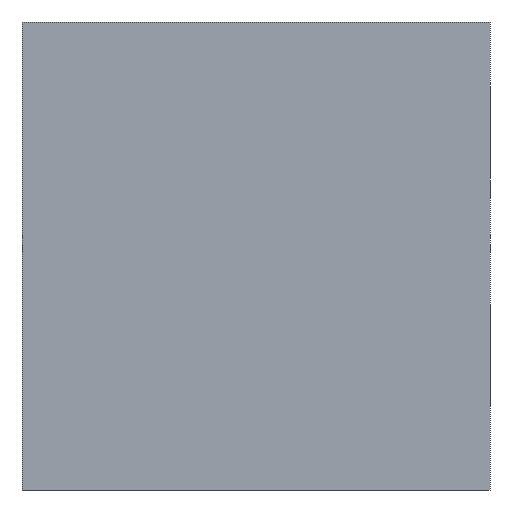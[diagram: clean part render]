
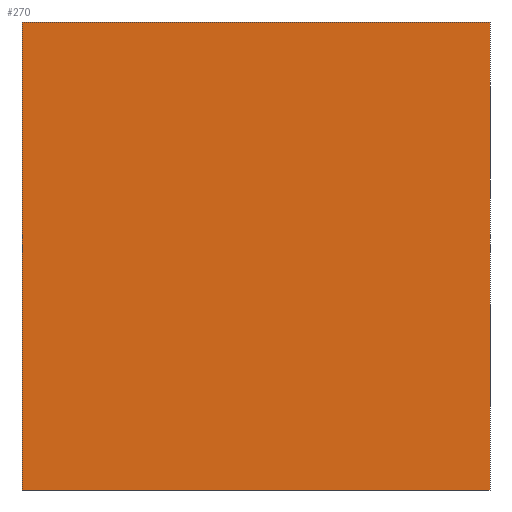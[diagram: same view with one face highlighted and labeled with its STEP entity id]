
A CAD part, front view. The second image highlights one B-rep face of the part: STEP entity #270.
In plain terms, the highlighted planar face has unit normal (0, -1, 0).
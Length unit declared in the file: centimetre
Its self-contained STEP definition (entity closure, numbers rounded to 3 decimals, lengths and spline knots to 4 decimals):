
#12 = VECTOR ( 'NONE', #1023, 100. ) ;
#23 = VECTOR ( 'NONE', #39, 100. ) ;
#27 = AXIS2_PLACEMENT_3D ( 'NONE', #768, #203, #542 ) ;
#36 = LINE ( 'NONE', #489, #23 ) ;
#39 = DIRECTION ( 'NONE',  ( 0., 0., -1. ) ) ;
#43 = EDGE_LOOP ( 'NONE', ( #741, #619, #787, #934 ) ) ;
#152 = DIRECTION ( 'NONE',  ( 1., 0., 0. ) ) ;
#158 = VERTEX_POINT ( 'NONE', #779 ) ;
#203 = DIRECTION ( 'NONE',  ( 0., 1., 0. ) ) ;
#206 = EDGE_CURVE ( 'NONE', #341, #765, #622, .T. ) ;
#270 = ADVANCED_FACE ( 'NONE', ( #949 ), #453, .F. ) ;
#273 = CARTESIAN_POINT ( 'NONE',  ( 0., 0., 1000. ) ) ;
#275 = EDGE_CURVE ( 'NONE', #481, #341, #865, .T. ) ;
#341 = VERTEX_POINT ( 'NONE', #735 ) ;
#409 = DIRECTION ( 'NONE',  ( 1., 0., 0. ) ) ;
#453 = PLANE ( 'NONE',  #27 ) ;
#481 = VERTEX_POINT ( 'NONE', #942 ) ;
#489 = CARTESIAN_POINT ( 'NONE',  ( 1000., 0., 1000. ) ) ;
#542 = DIRECTION ( 'NONE',  ( 0., 0., 1. ) ) ;
#619 = ORIENTED_EDGE ( 'NONE', *, *, #836, .F. ) ;
#622 = LINE ( 'NONE', #940, #660 ) ;
#649 = EDGE_CURVE ( 'NONE', #481, #158, #901, .T. ) ;
#660 = VECTOR ( 'NONE', #152, 100. ) ;
#714 = CARTESIAN_POINT ( 'NONE',  ( 1000., 0., 0. ) ) ;
#735 = CARTESIAN_POINT ( 'NONE',  ( 0., 0., 0. ) ) ;
#741 = ORIENTED_EDGE ( 'NONE', *, *, #206, .T. ) ;
#765 = VERTEX_POINT ( 'NONE', #714 ) ;
#768 = CARTESIAN_POINT ( 'NONE',  ( 0., 0., 1000. ) ) ;
#779 = CARTESIAN_POINT ( 'NONE',  ( 1000., 0., 1000. ) ) ;
#787 = ORIENTED_EDGE ( 'NONE', *, *, #649, .F. ) ;
#810 = VECTOR ( 'NONE', #409, 100. ) ;
#836 = EDGE_CURVE ( 'NONE', #158, #765, #36, .T. ) ;
#865 = LINE ( 'NONE', #273, #12 ) ;
#901 = LINE ( 'NONE', #966, #810 ) ;
#934 = ORIENTED_EDGE ( 'NONE', *, *, #275, .T. ) ;
#940 = CARTESIAN_POINT ( 'NONE',  ( 0., 0., 0. ) ) ;
#942 = CARTESIAN_POINT ( 'NONE',  ( 0., 0., 1000. ) ) ;
#949 = FACE_OUTER_BOUND ( 'NONE', #43, .T. ) ;
#966 = CARTESIAN_POINT ( 'NONE',  ( 0., 0., 1000. ) ) ;
#1023 = DIRECTION ( 'NONE',  ( 0., 0., -1. ) ) ;
